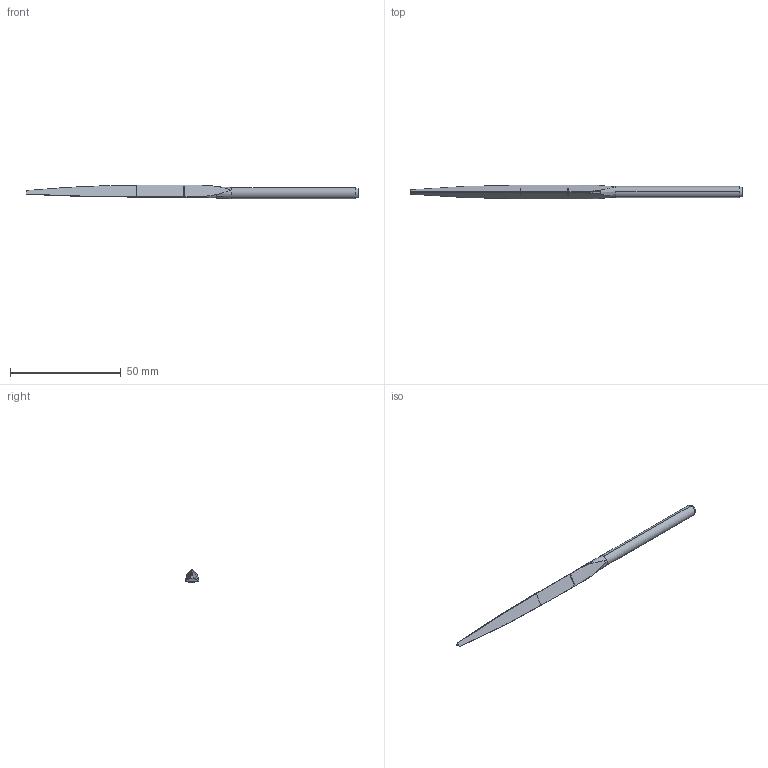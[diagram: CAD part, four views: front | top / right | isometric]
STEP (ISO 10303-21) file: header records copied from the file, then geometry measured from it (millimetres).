
FILE_DESCRIPTION (( 'STEP AP203' ), '1' );
FILE_NAME ('チタンスーパーソー三角.STEP', '2026-07-03T06:28:21', ( '' ), ( '' ), 'SwSTEP 2.0', 'SolidWorks 2016', '' );
FILE_SCHEMA (( 'CONFIG_CONTROL_DESIGN' ));
Length unit declared in the file: millimetre
Products named in the file (1): チタンスーパーソー三角
Bounding box: 150 x 6.21 x 5.96 mm (x, y, z)
Volume: 2460.8 mm3; surface area: 2393.8 mm2
Topology: 1 solids, 1 shells, 37 faces, 93 edges, 58 vertices
Faces by surface type: cylinder 14, torus 8, plane 8, bspline 5, cone 2
Entity records: 1347 total; most frequent: CARTESIAN_POINT 451, ORIENTED_EDGE 186, DIRECTION 153, EDGE_CURVE 93, AXIS2_PLACEMENT_3D 64, VERTEX_POINT 58, B_SPLINE_CURVE_WITH_KNOTS 37, ADVANCED_FACE 37
